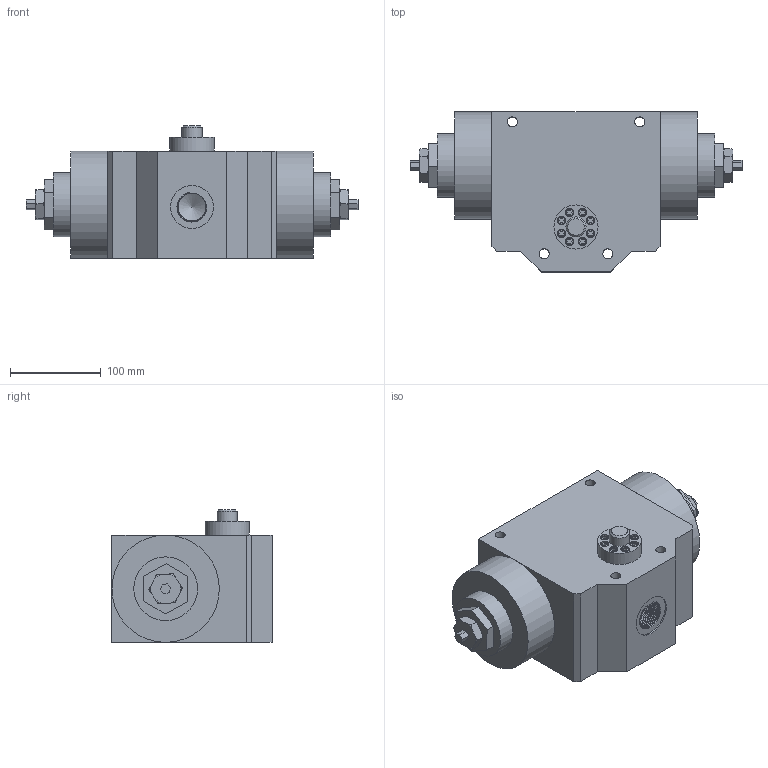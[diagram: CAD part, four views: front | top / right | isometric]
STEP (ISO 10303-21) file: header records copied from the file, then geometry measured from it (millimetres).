
FILE_DESCRIPTION(/* description */ (''),/* implementation_level */ '2;1');
FILE_NAME(/* name */ '8.prt.stp',/* time_stamp */ '2023-05-03T13:33:39+08:00',/* author */ (''),/* organization */ (''),/* preprocessor_version */ 'ST-DEVELOPER v16.7',/* originating_system */ 'SIEMENS PLM Software NX 12.0',/* authorisation */ '');
FILE_SCHEMA (('AUTOMOTIVE_DESIGN { 1 0 10303 214 3 1 1 1 }'));
Length unit declared in the file: millimetre
Products named in the file (1): 8
Bounding box: 365 x 176 x 146 mm (x, y, z)
Volume: 4630992.7 mm3; surface area: 305796.2 mm2
Topology: 21 solids, 21 shells, 335 faces, 801 edges, 527 vertices
Faces by surface type: plane 198, cylinder 76, torus 32, cone 20, bspline 9
Full cylindrical faces by diameter (mm): 4.2 x8, 5 x8, 5.5 x8, 8.5 x8, 9.5 x8, 11 x4, 22 x2, 38 x2, 47 x1, 48.495 x1, 70.078 x2, 118 x2
Entity records: 23362 total; most frequent: CARTESIAN_POINT 15905, DIRECTION 1453, ORIENTED_EDGE 1354, EDGE_CURVE 677, AXIS2_PLACEMENT_3D 533, VERTEX_POINT 504, EDGE_LOOP 486, LINE 387
